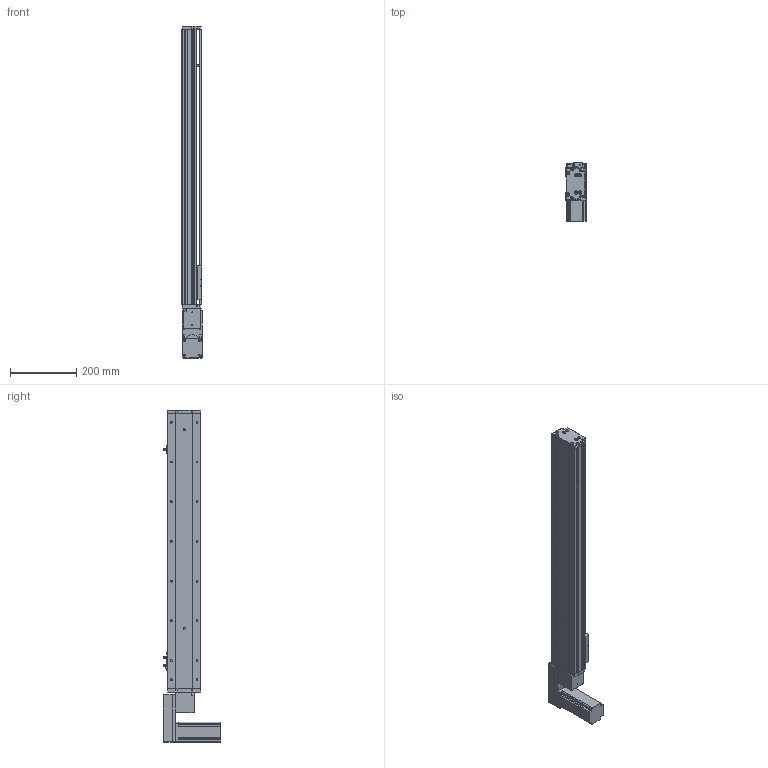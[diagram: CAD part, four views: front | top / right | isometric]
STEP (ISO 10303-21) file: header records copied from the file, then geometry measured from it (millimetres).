
FILE_DESCRIPTION (( 'STEP AP214' ), '1' );
FILE_NAME ('KSD100B-S650-MLB-CM.STEP', '2019-11-09T02:46:27', ( '微软用户' ), ( '微软中国' ), 'SwSTEP 2.0', 'SolidWorks 2014', '' );
FILE_SCHEMA (( 'AUTOMOTIVE_DESIGN' ));
Length unit declared in the file: millimetre
Products named in the file (12): U倰嫖萇EEㄜSX672; 覜茼え100遵圉猾敕; 100宽防尘板650行程-同步带; 100宽马达安装板同步带左; 100宽同步带安装板半封闭; 100宽马达安装板同步带; 100遵傷啣肮祭湍; 100宽底板半封闭同步带650行程; KSD100B-S650-MLB-CM; 悵誘欶奻狟殏; 100宽马达安装板连板上下折丝杆同步带; 台达ECMA－C20604AS伺服电机
Assembly tree (13 placements, depth 2):
  KSD100B-S650-MLB-CM
    100宽底板半封闭同步带650行程
    100遵傷啣肮祭湍
    100宽马达安装板同步带
    100宽同步带安装板半封闭
    100宽马达安装板同步带左
    100宽防尘板650行程-同步带
    覜茼え100遵圉猾敕
    U倰嫖萇EEㄜSX672  x3
    台达ECMA－C20604AS伺服电机
    100宽马达安装板连板上下折丝杆同步带
    悵誘欶奻狟殏
Bounding box: 61 x 174.7 x 1003 mm (x, y, z)
Volume: 2274492.8 mm3; surface area: 735421.3 mm2
Topology: 14 solids, 14 shells, 1385 faces, 3888 edges, 2487 vertices
Faces by surface type: cylinder 687, plane 583, cone 115
Entity records: 48645 total; most frequent: CARTESIAN_POINT 9328, DIRECTION 6716, ORIENTED_EDGE 6452, EDGE_CURVE 3226, AXIS2_PLACEMENT_3D 2445, VERTEX_POINT 2111, LINE 1826, VECTOR 1826
